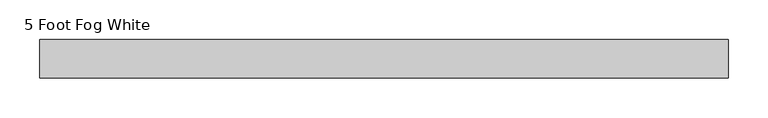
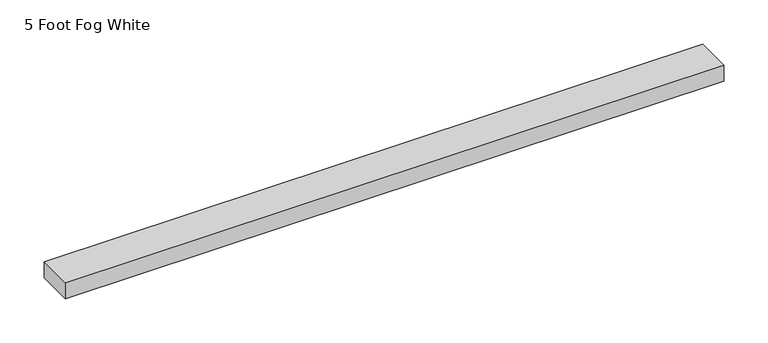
"""IFC4 building model written with IfcOpenShell, lengths in millimetres: proxy geometry, Raceway-2400_Series-Wiremold-Steel : 5 Foot Fog White."""

from ifc_helpers import new_model, si_unit, origin, origin_with_axes, place, context, project, spatial, polyline, outline, extrude, source, transform, mapped, element, save


def proxy_5_foot_fog_white_203c3073(model_context):
    return source(origin(), model_context, "Body", "SweptSolid", [
        extrude(outline(polyline([(863.6, 24.2062), (863.6, -24.2062), (0.0, -24.2062), (0.0, 24.2062), (863.6, 24.2062)])), origin_with_axes(), (0.0, 0.0, 1.0), 22.225),
    ])


if __name__ == "__main__":
    model = new_model("IFC4")
    model_context = context("Model", 3, world=origin())
    ifc_project = project(units=[si_unit("LENGTHUNIT", "METRE", prefix="MILLI")], contexts=[model_context])
    site = spatial("IfcSite", under=ifc_project)
    building = spatial("IfcBuilding", under=site)
    placement = place(None, origin())
    proxy_5_foot_fog_white_shape = proxy_5_foot_fog_white_203c3073(model_context)
    element("IfcBuildingElementProxy", 1, Name="Raceway-2400_Series-Wiremold-Steel : 5 Foot Fog White", ObjectType="Raceway-2400_Series-Wiremold-Steel : 5 Foot Fog White", at=placement, inside=building, context=model_context, shape_type="MappedRepresentation", body=[
        mapped(proxy_5_foot_fog_white_shape, transform((0.0, 0.0, 0.0), x_axis=(1.0, 0.0, 0.0), y_axis=(0.0, 1.0, 0.0), z_axis=(0.0, 0.0, 1.0))),
    ])
    save(model, "model.ifc")
